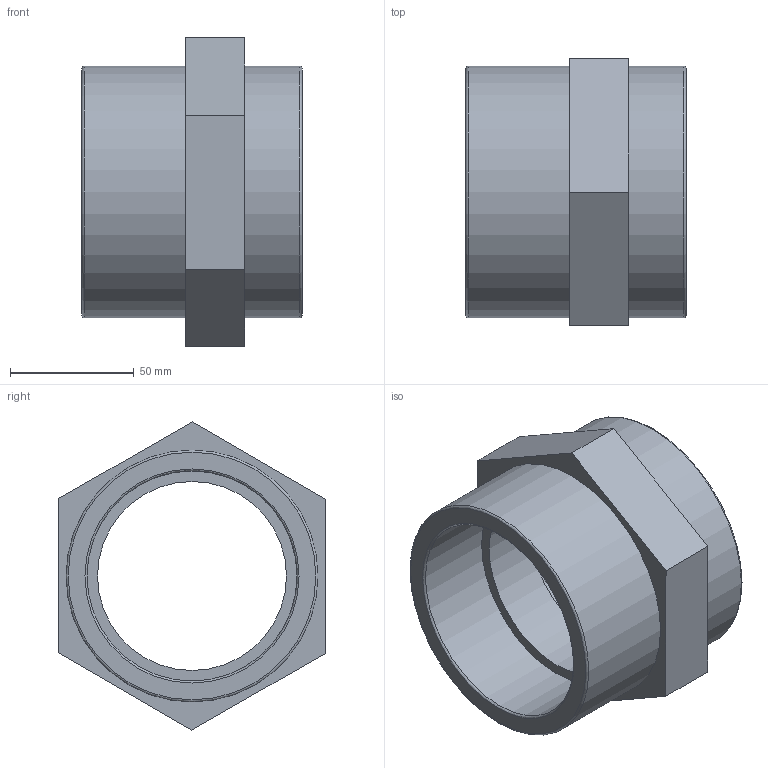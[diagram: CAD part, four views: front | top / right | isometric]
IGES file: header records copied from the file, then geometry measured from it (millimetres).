
Global section: file name: 050101030.ipt; native system: Autodesk Inventor 2015; preprocessor: unknown; author: KIM; date: 20171207.164046; units: millimetre
Bounding box: 89 x 108.18 x 124.71 mm (x, y, z)
Volume: 293061.7 mm3; surface area: 63519.4 mm2
Topology: 1 solids, 1 shells, 21 faces, 55 edges, 40 vertices
Faces by surface type: plane 12, revolution 7, cylinder 2
Full cylindrical faces by diameter (mm): 101.911 x2
